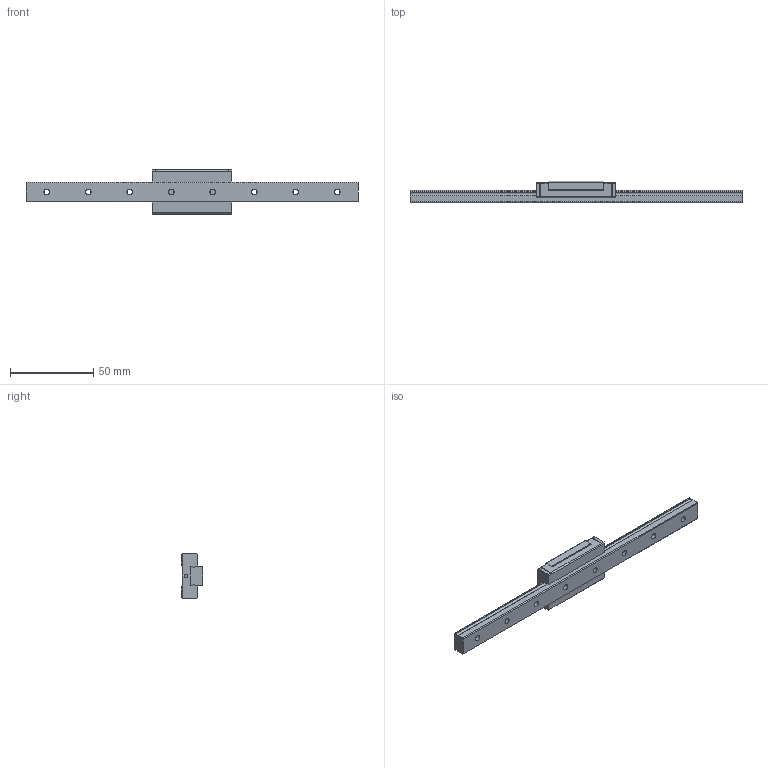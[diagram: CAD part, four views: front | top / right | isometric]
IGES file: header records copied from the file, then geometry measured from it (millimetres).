
Start section: Data from Parasolid IGES Translator 26.0.171, Copyright(c) 2006 Siemens PLM Software. All Rights Reserved.
Global section: file name: RSX12NMUU-200LM_G12-5_0_Without grease nipple_76-15_0_0_0_1.igs; native system: By Siemens PLM Incorporated; preprocessor: XPlus GENERIC/IGES 26.0.171; author: Noname; organization: Noname; date: 20240521.102538; units: millimetre
Bounding box: 200 x 13 x 27 mm (x, y, z)
Surface area: 13315.4 mm2 (no closed solid volume)
Topology: 0 solids, 0 shells, 132 faces, 684 edges, 640 vertices
Faces by surface type: extrusion 88, revolution 44
